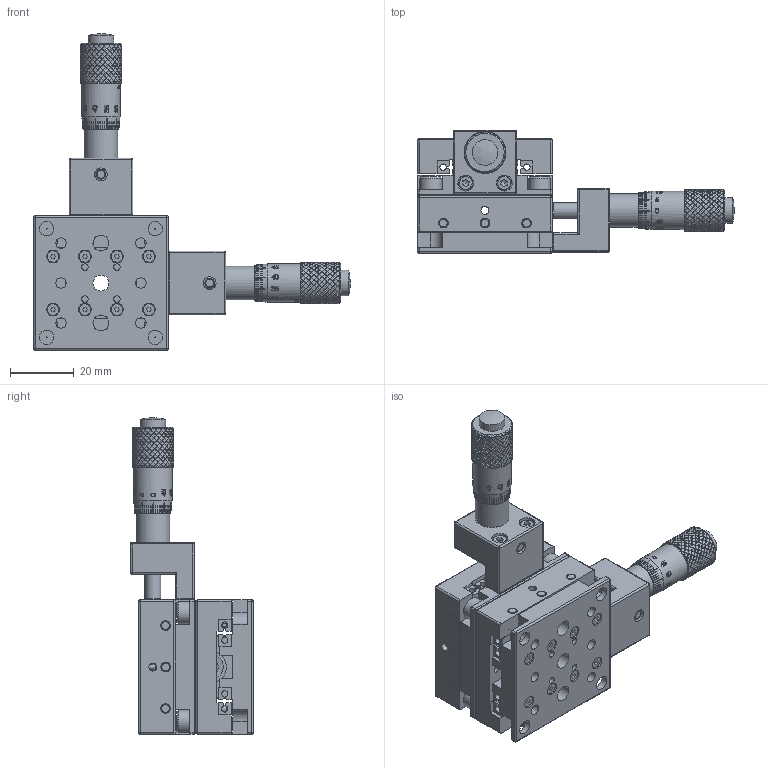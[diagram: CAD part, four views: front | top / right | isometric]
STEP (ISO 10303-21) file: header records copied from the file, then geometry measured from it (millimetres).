
FILE_DESCRIPTION (( 'STEP AP203' ), '1' );
FILE_NAME ('STCS42XY-05.step', '2017-01-10T09:12:34', ( '¦K¬P' ), ( '' ), 'SwSTEP 2.0', 'SolidWorks 2012', '' );
FILE_SCHEMA (( 'CONFIG_CONTROL_DESIGN' ));
Products named in the file (1): STCS42XY-05
Bounding box: 98.94 x 38.5 x 98.94 mm (x, y, z)
Surface area: 34121.9 mm2 (no closed solid volume)
Topology: 0 solids, 159 shells, 3204 faces, 11482 edges, 8177 vertices
Faces by surface type: bspline 1665, cylinder 1061, plane 409, sphere 38, cone 31
Full cylindrical faces by diameter (mm): 1.4 x2, 1.6 x6, 2 x31, 2.5 x12, 3 x7, 3.3 x14, 3.6 x1, 4 x18, 4.5 x4, 5 x10, 7 x4, 8 x2, 10 x1, 11 x2, 12 x2
Entity records: 293233 total; most frequent: CARTESIAN_POINT 221996, ORIENTED_EDGE 19546, EDGE_CURVE 11277, VERTEX_POINT 8155, DIRECTION 7521, B_SPLINE_CURVE_WITH_KNOTS 4374, EDGE_LOOP 3689, FACE_OUTER_BOUND 3294
